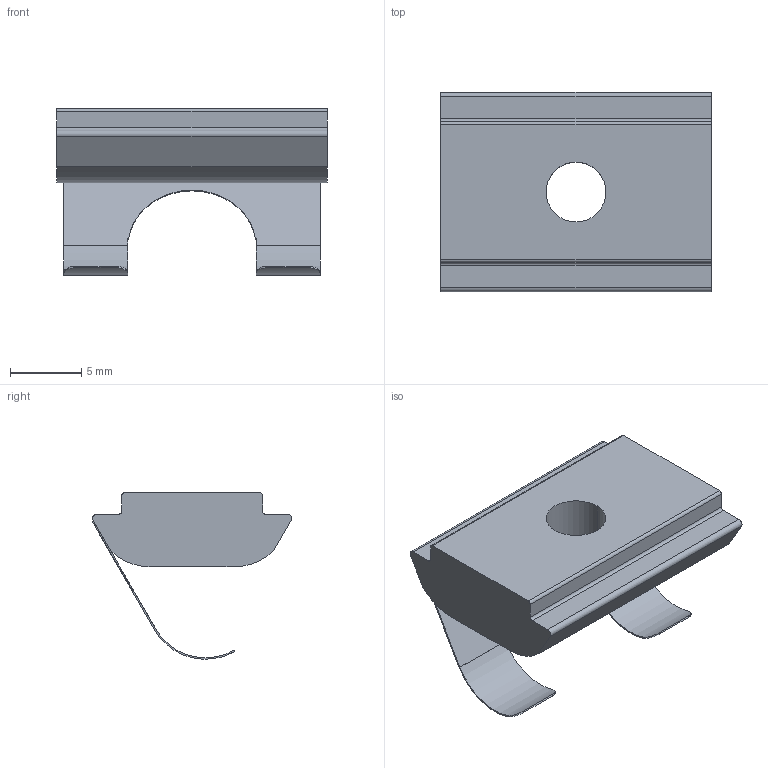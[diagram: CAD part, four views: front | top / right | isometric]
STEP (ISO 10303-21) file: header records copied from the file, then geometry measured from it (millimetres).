
FILE_DESCRIPTION (( 'STEP AP203' ), '1' );
FILE_NAME ('0110NSM5STF.STEP', '2024-03-05T13:38:35', ( 'Windows-Benutzer' ), ( '' ), 'SwSTEP 2.0', 'SolidWorks 2023', '' );
FILE_SCHEMA (( 'CONFIG_CONTROL_DESIGN' ));
Length unit declared in the file: millimetre
Products named in the file (1): 0110NSM5STF
Bounding box: 19 x 14.02 x 11.7 mm (x, y, z)
Volume: 1067.5 mm3; surface area: 1097.4 mm2
Topology: 1 solids, 1 shells, 43 faces, 123 edges, 82 vertices
Faces by surface type: plane 23, cylinder 20
Entity records: 1537 total; most frequent: CARTESIAN_POINT 331, ORIENTED_EDGE 246, DIRECTION 227, EDGE_CURVE 123, VERTEX_POINT 82, AXIS2_PLACEMENT_3D 78, LINE 71, VECTOR 71
